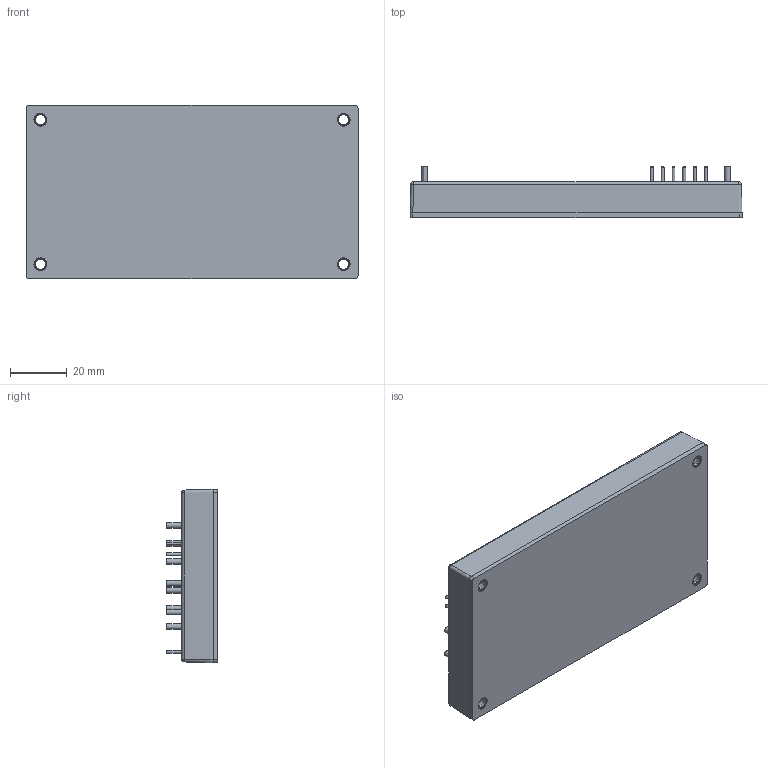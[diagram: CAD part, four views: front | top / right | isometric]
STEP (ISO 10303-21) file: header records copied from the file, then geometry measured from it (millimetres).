
FILE_DESCRIPTION (( 'STEP AP203' ), '1' );
FILE_NAME ('CFB400W 2024.05.09.STEP', '2024-05-09T07:37:56', ( '' ), ( '' ), 'SwSTEP 2.0', 'SolidWorks 2020', '' );
FILE_SCHEMA (( 'CONFIG_CONTROL_DESIGN' ));
Length unit declared in the file: millimetre
Products named in the file (1): CFB400W 2024.05.09
Bounding box: 116.8 x 18.2 x 61 mm (x, y, z)
Volume: 85183.1 mm3; surface area: 31843.2 mm2
Topology: 1 solids, 2 shells, 1140 faces, 2894 edges, 1873 vertices
Faces by surface type: plane 746, bspline 188, cone 120, cylinder 82, sphere 4
Full cylindrical faces by diameter (mm): 1 x8, 1.4 x8, 2 x8, 2.4 x8, 3.5 x4, 4.5 x4, 5 x4, 5.4 x4, 6 x1
Entity records: 43666 total; most frequent: CARTESIAN_POINT 18093, ORIENTED_EDGE 5530, DIRECTION 4507, EDGE_CURVE 2765, VERTEX_POINT 1833, VECTOR 1749, LINE 1749, AXIS2_PLACEMENT_3D 1379
